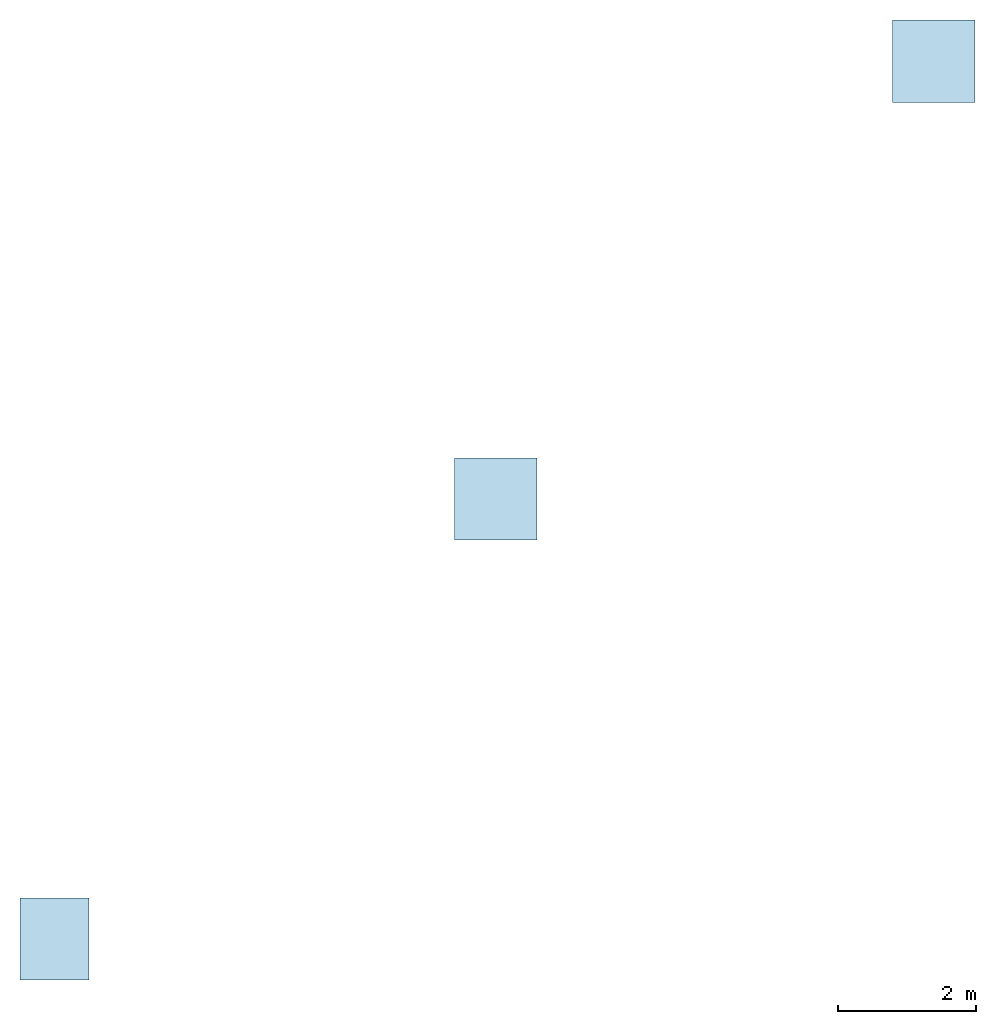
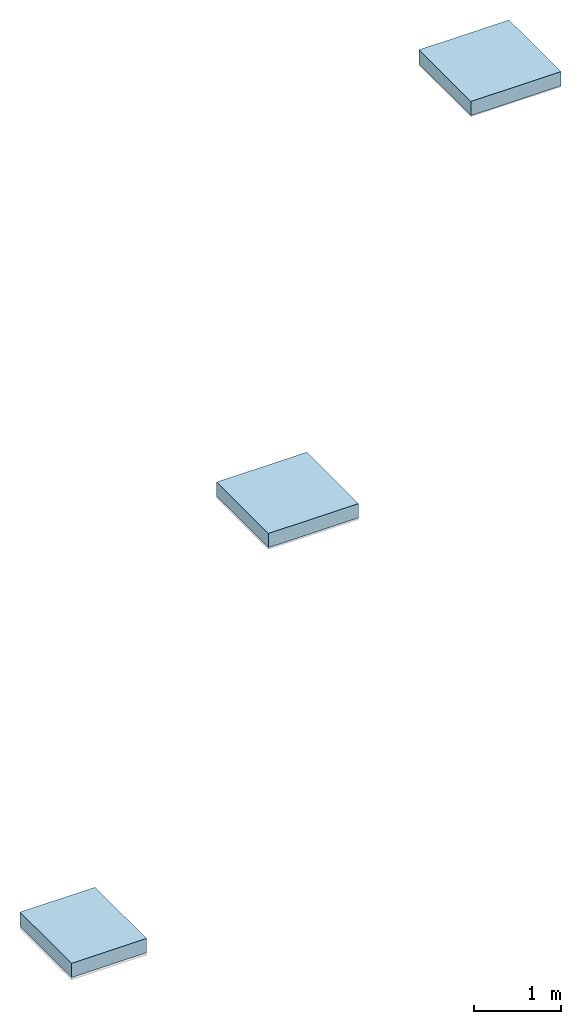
# One storey, part 1 of 2: 3 slabs.
"""IFC2X3 building model written with IfcOpenShell, lengths in millimetres."""

from ifc_helpers import new_model, entity, si_unit, converted_unit, derived_unit, direction, frame, frame_2d, origin, origin_2d_with_axis, place, context, subcontext, project, spatial, rectangle, extrude, material, layer, layer_set, layer_usage, type_object, element, save


model = new_model("IFC2X3")

# Units and contexts
model_context = context("Model", 3, precision=0.01, world=origin(), true_north=direction((6.12303176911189e-17, 1.0)))
context_of_model = context(None, 3, precision=0.01, world=origin(), true_north=direction((6.12303176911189e-17, 1.0)))
body_context = subcontext(model_context, "Body", "Model", "MODEL_VIEW")
ifc_project = project(units=[si_unit("LENGTHUNIT", "METRE", prefix="MILLI"), si_unit("AREAUNIT", "SQUARE_METRE"), si_unit("VOLUMEUNIT", "CUBIC_METRE"), converted_unit("PLANEANGLEUNIT", "DEGREE", entity("IfcRatioMeasure", 0.0174532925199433), si_unit("PLANEANGLEUNIT", "RADIAN"), dimensions=[0, 0, 0, 0, 0, 0, 0]), si_unit("MASSUNIT", "GRAM", prefix="KILO"), derived_unit("MASSDENSITYUNIT", [(si_unit("MASSUNIT", "GRAM", prefix="KILO"), 1), (si_unit("LENGTHUNIT", "METRE"), -3)]), derived_unit("MOMENTOFINERTIAUNIT", [(si_unit("LENGTHUNIT", "METRE"), 4)]), si_unit("TIMEUNIT", "SECOND"), si_unit("FREQUENCYUNIT", "HERTZ"), si_unit("THERMODYNAMICTEMPERATUREUNIT", "DEGREE_CELSIUS"), derived_unit("THERMALTRANSMITTANCEUNIT", [(si_unit("MASSUNIT", "GRAM", prefix="KILO"), 1), (si_unit("THERMODYNAMICTEMPERATUREUNIT", "KELVIN"), -1), (si_unit("TIMEUNIT", "SECOND"), -3)]), derived_unit("VOLUMETRICFLOWRATEUNIT", [(si_unit("LENGTHUNIT", "METRE"), 3), (si_unit("TIMEUNIT", "SECOND"), -1)]), si_unit("ELECTRICCURRENTUNIT", "AMPERE"), si_unit("ELECTRICVOLTAGEUNIT", "VOLT"), si_unit("POWERUNIT", "WATT"), si_unit("FORCEUNIT", "NEWTON", prefix="KILO"), si_unit("ILLUMINANCEUNIT", "LUX"), si_unit("LUMINOUSFLUXUNIT", "LUMEN"), si_unit("LUMINOUSINTENSITYUNIT", "CANDELA"), derived_unit("USERDEFINED", [(si_unit("MASSUNIT", "GRAM", prefix="KILO"), -1), (si_unit("LENGTHUNIT", "METRE"), -2), (si_unit("TIMEUNIT", "SECOND"), 3), (si_unit("LUMINOUSFLUXUNIT", "LUMEN"), 1)]), derived_unit("LINEARVELOCITYUNIT", [(si_unit("LENGTHUNIT", "METRE"), 1), (si_unit("TIMEUNIT", "SECOND"), -1)]), si_unit("PRESSUREUNIT", "PASCAL"), derived_unit("USERDEFINED", [(si_unit("LENGTHUNIT", "METRE"), -2), (si_unit("MASSUNIT", "GRAM", prefix="KILO"), 1), (si_unit("TIMEUNIT", "SECOND"), -2)]), derived_unit("LINEARFORCEUNIT", [(si_unit("MASSUNIT", "GRAM", prefix="KILO"), 1), (si_unit("LENGTHUNIT", "METRE"), 1), (si_unit("TIMEUNIT", "SECOND"), -2), (si_unit("LENGTHUNIT", "METRE"), -1)]), derived_unit("PLANARFORCEUNIT", [(si_unit("MASSUNIT", "GRAM", prefix="KILO"), 1), (si_unit("LENGTHUNIT", "METRE"), 1), (si_unit("TIMEUNIT", "SECOND"), -2), (si_unit("LENGTHUNIT", "METRE"), -2)])], contexts=[model_context, context_of_model])

# Site, building, storey
site_placement = place(None, origin())
site = spatial("IfcSite", under=ifc_project, at=site_placement, Name="Default", CompositionType="ELEMENT")
building_placement = place(site_placement, origin())
building = spatial("IfcBuilding", under=site, at=building_placement, CompositionType="ELEMENT")
storey_placement = place(building_placement, frame((0.0, 0.0, 1200.0)))
storey = spatial("IfcBuildingStorey", under=building, at=storey_placement, Name="01 eerste verdieping", CompositionType="ELEMENT", Elevation=1200.0)

# Slabs
ifc_material = material(Name="Concrete, Precast Panels")
ifc_layer = layer(ifc_material, 200.0)
ifc_layer_set = layer_set([ifc_layer], Name="Floor:Generic 200mm")
ifc_layer_usage_1 = layer_usage(ifc_layer_set, "AXIS3", "POSITIVE", 0.0)
slab_type_1 = type_object("IfcSlabType", Name="Floor:Generic 200mm", PredefinedType="FLOOR", material=ifc_layer_set)
slab_1_placement = place(storey_placement, origin())
element("IfcSlab", 1, at=slab_1_placement, inside=storey, type_object=slab_type_1, material=ifc_layer_usage_1, Name="Floor:Generic 200mm", ObjectType="Floor:Generic 200mm", PredefinedType="FLOOR", context=body_context, shape_type="SweptSolid", body=[
    extrude(rectangle(XDim=1200.0, YDim=1200.0, at=frame_2d((-2.1600499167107e-12, 0.0), x_axis=(1.0, 0.0))), frame((13327.9220613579, 15042.9220613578, 200.0), z_axis=(0.0, 0.0, -1.0), x_axis=(0.0, 1.0, 0.0)), (0.0, 0.0, 1.0), 200.0),
])
ifc_layer_usage_2 = layer_usage(ifc_layer_set, "AXIS3", "POSITIVE", 0.0)
slab_type_2 = type_object("IfcSlabType", Name="Floor:Generic 200mm", PredefinedType="FLOOR", material=ifc_layer_set)
slab_2_placement = place(storey_placement, origin())
element("IfcSlab", 2, at=slab_2_placement, inside=storey, type_object=slab_type_2, material=ifc_layer_usage_2, Name="Floor:Generic 200mm", ObjectType="Floor:Generic 200mm", PredefinedType="FLOOR", context=body_context, shape_type="SweptSolid", body=[
    extrude(rectangle(XDim=1195.00000000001, YDim=1200.0, at=origin_2d_with_axis()), frame((6958.9610306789, 8681.46103067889, 200.0), z_axis=(0.0, 0.0, -1.0), x_axis=(0.0, 1.0, 0.0)), (0.0, 0.0, 1.0), 200.0),
])
ifc_layer_usage_3 = layer_usage(ifc_layer_set, "AXIS3", "POSITIVE", 0.0)
slab_type_3 = type_object("IfcSlabType", Name="Floor:Generic 200mm", PredefinedType="FLOOR", material=ifc_layer_set)
slab_3_placement = place(storey_placement, origin())
element("IfcSlab", 3, at=slab_3_placement, inside=storey, type_object=slab_type_3, material=ifc_layer_usage_3, Name="Floor:Generic 200mm", ObjectType="Floor:Generic 200mm", PredefinedType="FLOOR", context=body_context, shape_type="SweptSolid", body=[
    extrude(rectangle(XDim=1190.00000000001, YDim=1000.0, at=frame_2d((-2.8421709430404e-13, 0.0), x_axis=(1.0, 0.0))), frame((542.142117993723, 2282.07547272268, 235.0), z_axis=(0.0, 0.0, -1.0), x_axis=(0.0, 1.0, 0.0)), (0.0, 0.0, 1.0), 200.0),
])

save(model, "model.ifc")
